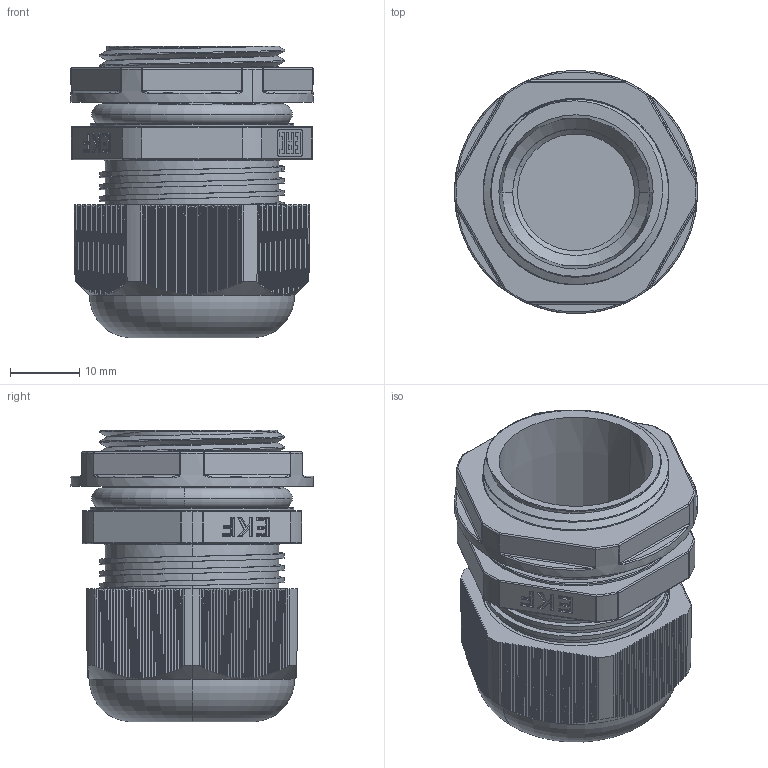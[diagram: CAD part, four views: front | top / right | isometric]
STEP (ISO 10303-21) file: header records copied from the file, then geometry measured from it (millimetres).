
FILE_DESCRIPTION (( 'STEP AP203' ), '1' );
FILE_NAME ('plc-pg-21-00.00.000ÑÁ Ñàëüíèê PG21 #cable gland PG21#.STEP', '2024-02-27T09:33:40', ( '' ), ( '' ), 'SwSTEP 2.0', 'SolidWorks 2021', '' );
FILE_SCHEMA (( 'CONFIG_CONTROL_DESIGN' ));
Length unit declared in the file: millimetre
Products named in the file (6): plc-pg-21-00.00.005 ﾌ瑙趺 (PG21) #sealing ring (PG21)#; plc-pg-21-00.00.002 Ãàéêà öàíãîâàÿ (PG21) #collet nut (PG21)#; plc-pg-21-00.00.000ÑÁ Ñàëüíèê PG21 #cable gland PG21#; plc-pg-21-00.00.003 Ãàéêà ïðèæèìíàÿ (PG21-Ì27) #clamping nut (PG21-M27)#; plc-pg-21-00.00.004 Óïëîòíèòåëü (PG21) #sealant (PG21)#_¤®à ¡®âª ; plc-pg-21-00.00.001 昢膼瘔 (PG21) #base (PG21)#
Assembly tree (5 placements, depth 2):
  plc-pg-21-00.00.000ÑÁ Ñàëüíèê PG21 #cable gland PG21#
    plc-pg-21-00.00.001 昢膼瘔 (PG21) #base (PG21)#
    plc-pg-21-00.00.002 Ãàéêà öàíãîâàÿ (PG21) #collet nut (PG21)#
    plc-pg-21-00.00.003 Ãàéêà ïðèæèìíàÿ (PG21-Ì27) #clamping nut (PG21-M27)#
    plc-pg-21-00.00.004 Óïëîòíèòåëü (PG21) #sealant (PG21)#_¤®à ¡®âª 
    plc-pg-21-00.00.005 ﾌ瑙趺 (PG21) #sealing ring (PG21)#
Bounding box: 35.09 x 35.09 x 42.03 mm (x, y, z)
Volume: 14879.4 mm3; surface area: 18848.1 mm2
Topology: 5 solids, 8 shells, 1225 faces, 3373 edges, 2168 vertices
Faces by surface type: plane 677, cylinder 206, cone 136, torus 89, bspline 81, sphere 36
Entity records: 55919 total; most frequent: CARTESIAN_POINT 26786, ORIENTED_EDGE 6730, DIRECTION 4954, EDGE_CURVE 3365, VERTEX_POINT 2168, AXIS2_PLACEMENT_3D 1705, VECTOR 1544, LINE 1544
